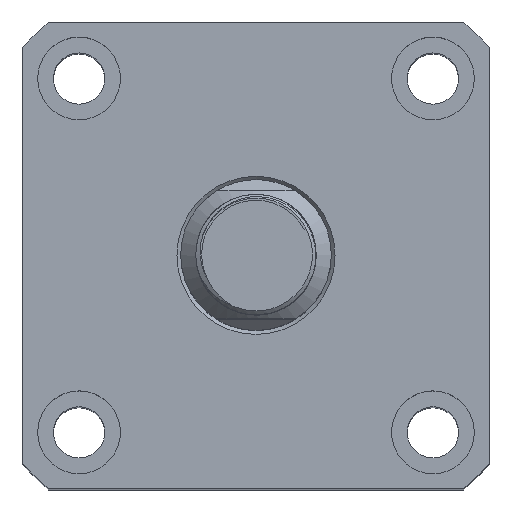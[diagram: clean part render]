
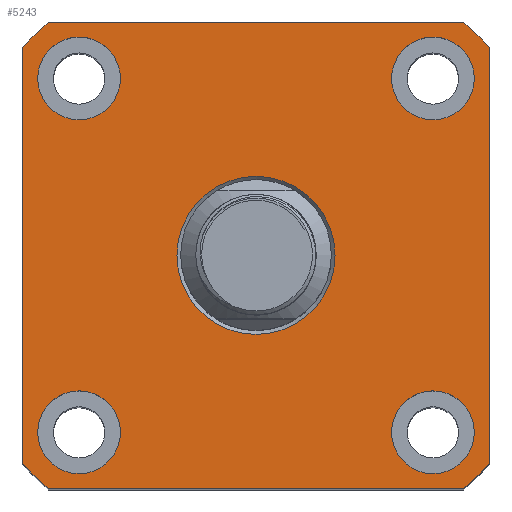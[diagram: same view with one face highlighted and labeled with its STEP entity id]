
A CAD part, top view. The second image highlights one B-rep face of the part: STEP entity #5243.
In plain terms, the highlighted planar face has unit normal (0, 0, 1).
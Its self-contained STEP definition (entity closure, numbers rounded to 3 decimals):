
#2434=PLANE('',#11479);
#2900=LINE('',#17638,#3661);
#2909=LINE('',#18297,#3670);
#2913=LINE('',#18309,#3674);
#2916=LINE('',#18321,#3677);
#3661=VECTOR('',#11971,1.);
#3670=VECTOR('',#12128,1.);
#3674=VECTOR('',#12140,1.);
#3677=VECTOR('',#12157,1.);
#5243=ADVANCED_FACE('',(#5777,#5778,#5779,#5780,#5781,#5782),#2434,.T.);
#5777=FACE_BOUND('',#6018,.T.);
#5778=FACE_BOUND('',#6019,.T.);
#5779=FACE_BOUND('',#6020,.T.);
#5780=FACE_BOUND('',#6021,.T.);
#5781=FACE_BOUND('',#6022,.T.);
#5782=FACE_BOUND('',#6023,.T.);
#6018=EDGE_LOOP('',(#6975));
#6019=EDGE_LOOP('',(#6976));
#6020=EDGE_LOOP('',(#6977));
#6021=EDGE_LOOP('',(#6978));
#6022=EDGE_LOOP('',(#6979));
#6023=EDGE_LOOP('',(#6980,#6981,#6982,#6983,#6984,#6985,#6986,#6987));
#6975=ORIENTED_EDGE('',*,*,#10143,.T.);
#6976=ORIENTED_EDGE('',*,*,#10192,.F.);
#6977=ORIENTED_EDGE('',*,*,#10194,.F.);
#6978=ORIENTED_EDGE('',*,*,#10196,.F.);
#6979=ORIENTED_EDGE('',*,*,#10198,.F.);
#6980=ORIENTED_EDGE('',*,*,#10218,.T.);
#6981=ORIENTED_EDGE('',*,*,#10222,.T.);
#6982=ORIENTED_EDGE('',*,*,#10225,.T.);
#6983=ORIENTED_EDGE('',*,*,#10228,.T.);
#6984=ORIENTED_EDGE('',*,*,#10230,.T.);
#6985=ORIENTED_EDGE('',*,*,#10127,.T.);
#6986=ORIENTED_EDGE('',*,*,#10233,.T.);
#6987=ORIENTED_EDGE('',*,*,#10235,.T.);
#9176=VERTEX_POINT('',#17637);
#9177=VERTEX_POINT('',#17639);
#9192=VERTEX_POINT('',#17799);
#9241=VERTEX_POINT('',#18225);
#9243=VERTEX_POINT('',#18230);
#9245=VERTEX_POINT('',#18235);
#9247=VERTEX_POINT('',#18240);
#9267=VERTEX_POINT('',#18288);
#9268=VERTEX_POINT('',#18290);
#9270=VERTEX_POINT('',#18296);
#9272=VERTEX_POINT('',#18302);
#9274=VERTEX_POINT('',#18308);
#9276=VERTEX_POINT('',#18317);
#10127=EDGE_CURVE('',#9177,#9176,#2900,.T.);
#10143=EDGE_CURVE('',#9192,#9192,#11244,.T.);
#10192=EDGE_CURVE('',#9241,#9241,#11253,.T.);
#10194=EDGE_CURVE('',#9243,#9243,#11255,.T.);
#10196=EDGE_CURVE('',#9245,#9245,#11257,.T.);
#10198=EDGE_CURVE('',#9247,#9247,#11259,.T.);
#10218=EDGE_CURVE('',#9268,#9267,#11278,.T.);
#10222=EDGE_CURVE('',#9267,#9270,#2909,.T.);
#10225=EDGE_CURVE('',#9270,#9272,#11280,.T.);
#10228=EDGE_CURVE('',#9272,#9274,#2913,.T.);
#10230=EDGE_CURVE('',#9274,#9177,#11282,.T.);
#10233=EDGE_CURVE('',#9176,#9276,#11284,.T.);
#10235=EDGE_CURVE('',#9276,#9268,#2916,.T.);
#11244=CIRCLE('',#11414,10.5);
#11253=CIRCLE('',#11428,5.5);
#11255=CIRCLE('',#11431,5.5);
#11257=CIRCLE('',#11434,5.5);
#11259=CIRCLE('',#11437,5.5);
#11278=CIRCLE('',#11465,41.5);
#11280=CIRCLE('',#11469,41.5);
#11282=CIRCLE('',#11473,41.5);
#11284=CIRCLE('',#11476,41.5);
#11414=AXIS2_PLACEMENT_3D('',#17798,#12015,#12016);
#11428=AXIS2_PLACEMENT_3D('',#18224,#12046,#12047);
#11431=AXIS2_PLACEMENT_3D('',#18229,#12052,#12053);
#11434=AXIS2_PLACEMENT_3D('',#18234,#12058,#12059);
#11437=AXIS2_PLACEMENT_3D('',#18239,#12064,#12065);
#11465=AXIS2_PLACEMENT_3D('',#18289,#12121,#12122);
#11469=AXIS2_PLACEMENT_3D('',#18303,#12134,#12135);
#11473=AXIS2_PLACEMENT_3D('',#18312,#12145,#12146);
#11476=AXIS2_PLACEMENT_3D('',#18318,#12152,#12153);
#11479=AXIS2_PLACEMENT_3D('',#18323,#12160,#12161);
#11971=DIRECTION('',(0.,1.,0.));
#12015=DIRECTION('',(0.,0.,-1.));
#12016=DIRECTION('',(1.,0.,0.));
#12046=DIRECTION('',(0.,0.,1.));
#12047=DIRECTION('',(1.,0.,0.));
#12052=DIRECTION('',(0.,0.,1.));
#12053=DIRECTION('',(1.,0.,0.));
#12058=DIRECTION('',(0.,0.,1.));
#12059=DIRECTION('',(1.,0.,0.));
#12064=DIRECTION('',(0.,0.,1.));
#12065=DIRECTION('',(1.,0.,0.));
#12121=DIRECTION('',(0.,0.,1.));
#12122=DIRECTION('',(1.,0.,0.));
#12128=DIRECTION('',(0.,-1.,0.));
#12134=DIRECTION('',(0.,0.,1.));
#12135=DIRECTION('',(1.,0.,0.));
#12140=DIRECTION('',(1.,0.,0.));
#12145=DIRECTION('',(0.,0.,1.));
#12146=DIRECTION('',(1.,0.,0.));
#12152=DIRECTION('',(0.,0.,1.));
#12153=DIRECTION('',(1.,0.,0.));
#12157=DIRECTION('',(-1.,0.,0.));
#12160=DIRECTION('',(0.,0.,1.));
#12161=DIRECTION('',(-1.,0.,0.));
#17637=CARTESIAN_POINT('',(31.,27.591,47.));
#17638=CARTESIAN_POINT('',(31.,27.591,47.));
#17639=CARTESIAN_POINT('',(31.,-27.591,47.));
#17798=CARTESIAN_POINT('',(0.,0.,47.));
#17799=CARTESIAN_POINT('',(10.5,0.,47.));
#18224=CARTESIAN_POINT('',(-23.5,-23.5,47.));
#18225=CARTESIAN_POINT('',(-18.,-23.5,47.));
#18229=CARTESIAN_POINT('',(-23.5,23.5,47.));
#18230=CARTESIAN_POINT('',(-18.,23.5,47.));
#18234=CARTESIAN_POINT('',(23.5,-23.5,47.));
#18235=CARTESIAN_POINT('',(29.,-23.5,47.));
#18239=CARTESIAN_POINT('',(23.5,23.5,47.));
#18240=CARTESIAN_POINT('',(29.,23.5,47.));
#18288=CARTESIAN_POINT('',(-31.,27.591,47.));
#18289=CARTESIAN_POINT('',(0.,0.,47.));
#18290=CARTESIAN_POINT('',(-27.591,31.,47.));
#18296=CARTESIAN_POINT('',(-31.,-27.591,47.));
#18297=CARTESIAN_POINT('',(-31.,27.591,47.));
#18302=CARTESIAN_POINT('',(-27.591,-31.,47.));
#18303=CARTESIAN_POINT('',(0.,0.,47.));
#18308=CARTESIAN_POINT('',(27.591,-31.,47.));
#18309=CARTESIAN_POINT('',(-27.591,-31.,47.));
#18312=CARTESIAN_POINT('',(0.,0.,47.));
#18317=CARTESIAN_POINT('',(27.591,31.,47.));
#18318=CARTESIAN_POINT('',(0.,0.,47.));
#18321=CARTESIAN_POINT('',(-27.591,31.,47.));
#18323=CARTESIAN_POINT('',(0.,0.,47.));
